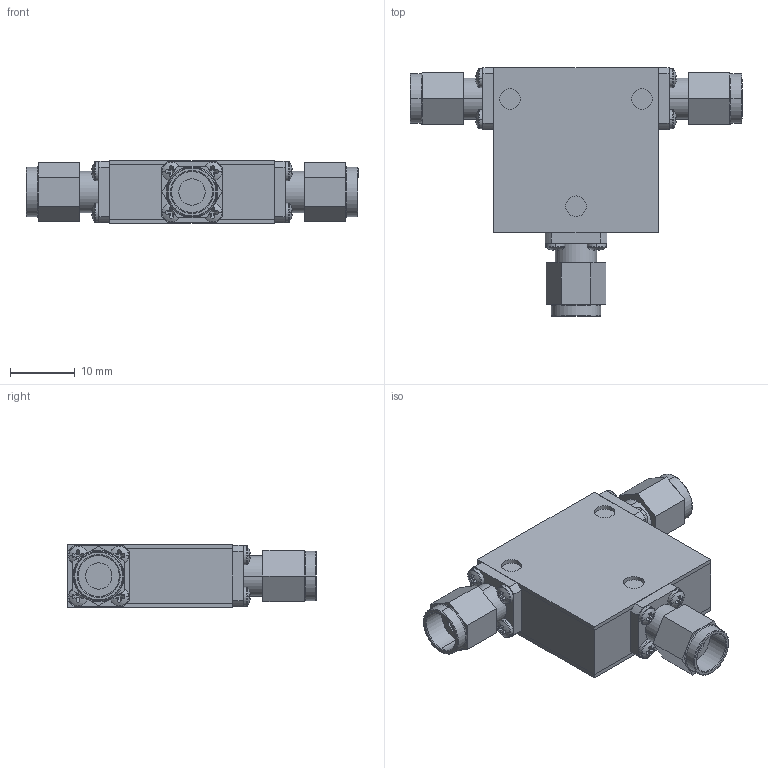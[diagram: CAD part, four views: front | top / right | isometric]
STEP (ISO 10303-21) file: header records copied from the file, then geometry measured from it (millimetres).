
FILE_DESCRIPTION (( 'STEP AP214' ), '1' );
FILE_NAME ('Package 9 Circ MMM.step', '2021-12-01T21:02:40', ( '' ), ( '' ), 'SwSTEP 2.0', 'SolidWorks 2016', '' );
FILE_SCHEMA (( 'AUTOMOTIVE_DESIGN' ));
Length unit declared in the file: inch
Products named in the file (5): pan cross head_ai_CR-PHMS 0.06-80x0.125x0.125-N; Package Size 9; Package 9; Package 9 Circ MMM; Delta SMA-Male 0.375 flagne
Assembly tree (17 placements, depth 2):
  Package 9 Circ MMM
    Package Size 9
    Package 9
    pan cross head_ai_CR-PHMS 0.06-80x0.125x0.125-N  x12
    Delta SMA-Male 0.375 flagne  x3
Bounding box: 51.16 x 38.28 x 9.65 mm (x, y, z)
Volume: 7609.4 mm3; surface area: 7822.6 mm2
Topology: 17 solids, 17 shells, 445 faces, 1014 edges, 624 vertices
Faces by surface type: plane 259, cylinder 120, torus 42, sphere 24
Entity records: 3248 total; most frequent: DIRECTION 584, CARTESIAN_POINT 504, ORIENTED_EDGE 472, EDGE_CURVE 236, AXIS2_PLACEMENT_3D 230, VERTEX_POINT 150, VECTOR 124, LINE 124
